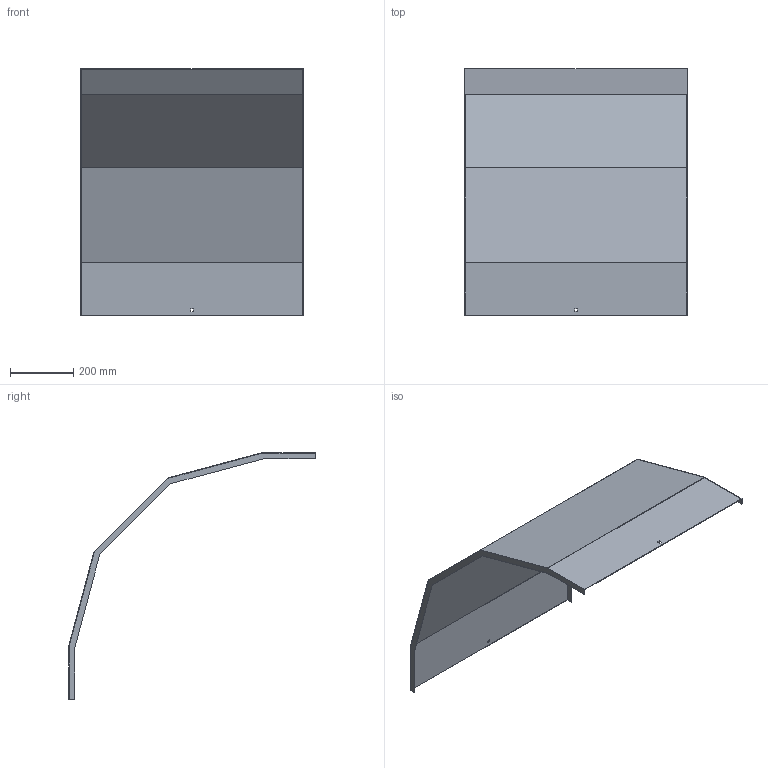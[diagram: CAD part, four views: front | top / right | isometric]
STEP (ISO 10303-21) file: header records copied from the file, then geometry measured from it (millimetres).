
FILE_DESCRIPTION (( 'STEP AP214' ), '1' );
FILE_NAME ('33N5J700.step', '2025-02-21T10:44:05', ( '' ), ( '' ), 'SwSTEP 2.0', 'SolidWorks 2023', '' );
FILE_SCHEMA (( 'AUTOMOTIVE_DESIGN' ));
Length unit declared in the file: millimetre
Products named in the file (1): 33N5J700
Bounding box: 703 x 779.96 x 779.96 mm (x, y, z)
Volume: 1422811.3 mm3; surface area: 1903154.4 mm2
Topology: 1 solids, 1 shells, 34 faces, 96 edges, 64 vertices
Faces by surface type: plane 34
Entity records: 1111 total; most frequent: CARTESIAN_POINT 195, ORIENTED_EDGE 192, DIRECTION 166, VECTOR 96, LINE 96, EDGE_CURVE 96, VERTEX_POINT 64, EDGE_LOOP 38
